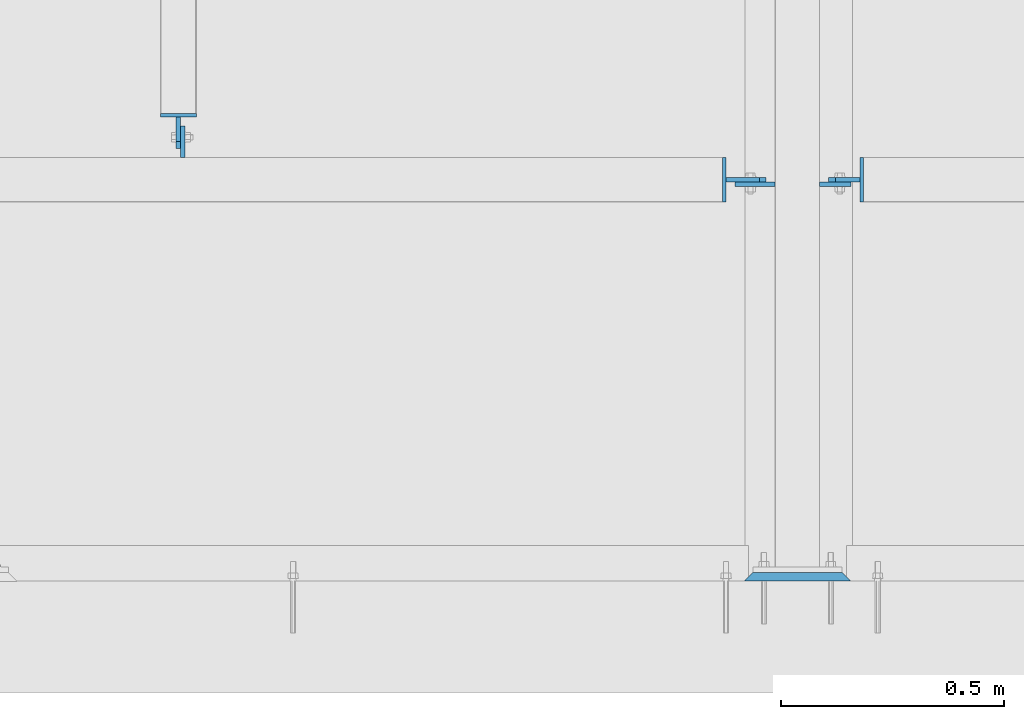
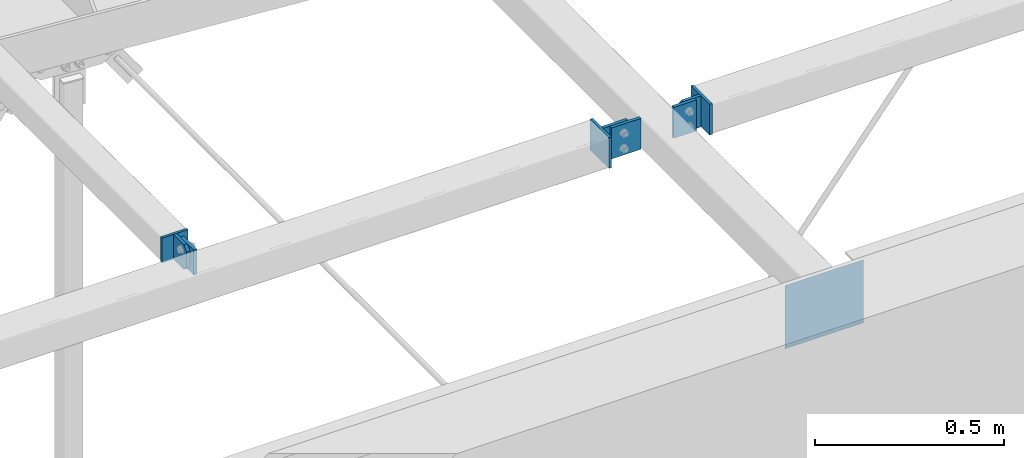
# One storey, part 105 of 271: 10 plates, 5 elements without a shape of their own.
"""IFC2X3 building model written with IfcOpenShell, lengths in millimetres."""

from ifc_helpers import new_model, si_unit, frame, origin_with_axes, place, context, subcontext, project, spatial, polyline, outline, extrude, boolean, material, type_object, element, aggregate, save


model = new_model("IFC2X3")

# Units and contexts
model_context = context("Model", 3, precision=1e-05, world=origin_with_axes())
body_context = subcontext(model_context, "Body", "Model", "MODEL_VIEW")
ifc_project = project(units=[si_unit("LENGTHUNIT", "METRE", prefix="MILLI"), si_unit("AREAUNIT", "SQUARE_METRE"), si_unit("VOLUMEUNIT", "CUBIC_METRE"), si_unit("MASSUNIT", "GRAM", prefix="KILO"), si_unit("TIMEUNIT", "SECOND"), si_unit("PLANEANGLEUNIT", "RADIAN"), si_unit("SOLIDANGLEUNIT", "STERADIAN"), si_unit("THERMODYNAMICTEMPERATUREUNIT", "DEGREE_CELSIUS"), si_unit("LUMINOUSINTENSITYUNIT", "LUMEN")], contexts=[model_context])

# Site, building, storey
site_placement = place(None, origin_with_axes())
site = spatial("IfcSite", under=ifc_project, at=site_placement, Name="Undefined", CompositionType="ELEMENT")
building_placement = place(site_placement, origin_with_axes())
building = spatial("IfcBuilding", under=site, at=building_placement, Name="Undefined", CompositionType="ELEMENT")
storey_placement = place(building_placement, origin_with_axes())
storey = spatial("IfcBuildingStorey", under=building, at=storey_placement, Name="Undefined", CompositionType="ELEMENT", Elevation=0.0)

# Assembly, plate
assembly_1_placement = place(storey_placement, origin_with_axes())
assembly_1 = element("IfcElementAssembly", 1, at=assembly_1_placement, inside=storey, AssemblyPlace="NOTDEFINED", PredefinedType="RIGID_FRAME")
ifc_material_1 = material(Name="STEEL/S355JR")
plate_type_1 = type_object("IfcPlateType", Name="BL8*100", PredefinedType="NOTDEFINED")
plate_1_placement = place(assembly_1_placement, frame((3004.37568709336, 849.32498425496, 20204.3499999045), z_axis=(1.0, 0.0, 0.0), x_axis=(0.0, 0.0, -1.0)))
plate_1 = element("IfcPlate", 2, at=plate_1_placement, type_object=plate_type_1, material=ifc_material_1, Name="BLACHA", ObjectType="BL8*100", context=body_context, shape_type="SweptSolid", body=[
    extrude(outline(polyline([(0.0, 0.0), (100.0, 0.0), (100.0, 100.0), (1.59161572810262e-12, 100.0), (0.0, 0.0)])), frame((0.0, 0.0, -4.0), z_axis=(0.0, 0.0, 1.0), x_axis=(1.0, 0.0, 0.0)), (0.0, 0.0, 1.0), 8.0),
])

assembly_2_placement = place(storey_placement, origin_with_axes())
assembly_2 = element("IfcElementAssembly", 3, at=assembly_2_placement, inside=storey, AssemblyPlace="NOTDEFINED", PredefinedType="RIGID_FRAME")
plate_2_placement = place(assembly_2_placement, frame((3312.37568709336, 849.32498425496, 20104.3499999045), z_axis=(-1.0, 0.0, 1.38777878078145e-17), x_axis=(0.0, 0.0, 1.0)))
plate_2 = element("IfcPlate", 4, at=plate_2_placement, type_object=plate_type_1, material=ifc_material_1, Name="BLACHA", ObjectType="BL8*100", context=body_context, shape_type="SweptSolid", body=[
    extrude(outline(polyline([(0.0, 0.0), (100.0, 0.0), (100.0, 100.0), (1.59161572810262e-12, 100.0), (0.0, 0.0)])), frame((0.0, 0.0, -4.0), z_axis=(0.0, 0.0, 1.0), x_axis=(1.0, 0.0, 0.0)), (0.0, 0.0, 1.0), 8.0),
])

assembly_3_placement = place(storey_placement, origin_with_axes())
assembly_3 = element("IfcElementAssembly", 5, at=assembly_3_placement, inside=storey, AssemblyPlace="NOTDEFINED", PredefinedType="RIGID_FRAME")
plate_type_2 = type_object("IfcPlateType", Name="BL10*70", PredefinedType="NOTDEFINED")
plate_3_placement = place(assembly_3_placement, frame((1781.37568709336, 984.32498425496, 20124.3499999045), z_axis=(-1.0, 0.0, 1.38777878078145e-17), x_axis=(0.0, -0.707106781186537, 0.707106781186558)))
plate_3 = element("IfcPlate", 6, at=plate_3_placement, type_object=plate_type_2, material=ifc_material_1, Name="BLACHA", ObjectType="BL10*70", context=body_context, shape_type="SweptSolid", body=[
    extrude(outline(polyline([(0.0, 0.0), (21.2132034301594, 1.09139364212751e-11), (56.5685424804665, 35.3553390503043), (56.568542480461, 56.5685424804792), (17.6776695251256, 95.4594192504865), (-38.890872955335, 38.8908729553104), (0.0, 0.0)])), frame((0.0, 0.0, -5.0), z_axis=(0.0, 0.0, 1.0), x_axis=(1.0, 0.0, 0.0)), (0.0, 0.0, 1.0), 10.0),
])

# Plate
plate_4_placement = place(assembly_1_placement, frame((1791.37568709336, 949.32498425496, 20124.3499999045), z_axis=(-1.0, 0.0, 1.38777878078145e-17), x_axis=(0.0, 0.0, 1.0)))
plate_4 = element("IfcPlate", 7, at=plate_4_placement, type_object=plate_type_2, material=ifc_material_1, Name="BLACHA", ObjectType="BL10*70", context=body_context, shape_type="SweptSolid", body=[
    extrude(outline(polyline([(0.0, 0.0), (80.0, 0.0), (80.0, 70.0), (0.0, 70.0), (0.0, 0.0)])), frame((0.0, 0.0, -5.0), z_axis=(0.0, 0.0, 1.0), x_axis=(1.0, 0.0, 0.0)), (0.0, 0.0, 1.0), 10.0),
])

plate_5_placement = place(assembly_2_placement, frame((3253.37568709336, 899.32498425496, 20104.3499999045), z_axis=(0.0, 1.0, 0.0), x_axis=(-0.707106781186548, 0.0, 0.707106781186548)))
plate_5 = element("IfcPlate", 8, at=plate_5_placement, type_object=plate_type_2, material=ifc_material_1, Name="BLACHA", ObjectType="BL10*70", context=body_context, shape_type="SweptSolid", body=[
    extrude(outline(polyline([(0.0, 0.0), (21.2132034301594, 1.09139364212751e-11), (70.7106781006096, 49.4974746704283), (70.7106781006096, 70.7106781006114), (31.8198051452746, 109.601554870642), (-38.890872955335, 38.8908729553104), (0.0, 0.0)])), frame((0.0, 0.0, -5.0), z_axis=(0.0, 0.0, 1.0), x_axis=(1.0, 0.0, 0.0)), (0.0, 0.0, 1.0), 10.0),
])

aggregate(assembly_2, [plate_2, plate_5])

# Assembly, plate
assembly_4_placement = place(storey_placement, origin_with_axes())
assembly_4 = element("IfcElementAssembly", 9, at=assembly_4_placement, inside=storey, AssemblyPlace="NOTDEFINED", PredefinedType="RIGID_FRAME")
plate_6_placement = place(assembly_4_placement, frame((3218.37568709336, 889.32498425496, 20104.3499999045), z_axis=(0.0, 1.0, 0.0), x_axis=(0.0, 0.0, 1.0)))
plate_6 = element("IfcPlate", 10, at=plate_6_placement, type_object=plate_type_2, material=ifc_material_1, Name="BLACHA", ObjectType="BL10*70", context=body_context, shape_type="SweptSolid", body=[
    extrude(outline(polyline([(0.0, 0.0), (100.0, 0.0), (100.0, 70.0), (0.0, 70.0), (0.0, 0.0)])), frame((0.0, 0.0, -5.0), z_axis=(0.0, 0.0, 1.0), x_axis=(1.0, 0.0, 0.0)), (0.0, 0.0, 1.0), 10.0),
])

# Plate
plate_type_3 = type_object("IfcPlateType", Name="BL8*80", PredefinedType="NOTDEFINED")
plate_7_placement = place(assembly_3_placement, frame((1821.37568709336, 1043.32498425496, 20124.3499999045), z_axis=(0.0, -1.0, 0.0), x_axis=(0.0, 0.0, 1.0)))
plate_7 = element("IfcPlate", 11, at=plate_7_placement, type_object=plate_type_3, material=ifc_material_1, Name="BLACHA", ObjectType="BL8*80", context=body_context, shape_type="SweptSolid", body=[
    extrude(outline(polyline([(0.0, 0.0), (80.0, 0.0), (80.0, 80.0), (0.0, 80.0), (0.0, 0.0)])), frame((0.0, 0.0, -4.0), z_axis=(0.0, 0.0, 1.0), x_axis=(1.0, 0.0, 0.0)), (0.0, 0.0, 1.0), 8.0),
])

aggregate(assembly_3, [plate_7, plate_3])

plate_type_4 = type_object("IfcPlateType", Name="BL10*90", PredefinedType="NOTDEFINED")
plate_8_placement = place(assembly_1_placement, frame((3083.37568709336, 899.32498425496, 20204.3499999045), z_axis=(0.0, 1.0, 0.0), x_axis=(0.70710678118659, 0.0, -0.707106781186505)))
plate_8 = element("IfcPlate", 12, at=plate_8_placement, type_object=plate_type_4, material=ifc_material_1, Name="BLACHA", ObjectType="BL10*90", context=body_context, shape_type="SweptSolid", body=[
    extrude(outline(polyline([(0.0, 0.0), (21.2132034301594, 1.09139364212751e-11), (70.7106781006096, 49.4974746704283), (70.7106781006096, 70.7106781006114), (17.6776695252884, 123.743690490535), (-53.033008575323, 53.0330085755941), (0.0, 0.0)])), frame((0.0, 0.0, -5.0), z_axis=(0.0, 0.0, 1.0), x_axis=(1.0, 0.0, 0.0)), (0.0, 0.0, 1.0), 10.0),
])

aggregate(assembly_1, [plate_4, plate_1, plate_8])

plate_9_placement = place(assembly_4_placement, frame((3118.37568709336, 889.32498425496, 20204.3499999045), z_axis=(0.0, 1.0, 0.0), x_axis=(0.0, 0.0, -1.0)))
plate_9 = element("IfcPlate", 13, at=plate_9_placement, type_object=plate_type_4, material=ifc_material_1, Name="BLACHA", ObjectType="BL10*90", context=body_context, shape_type="SweptSolid", body=[
    extrude(outline(polyline([(0.0, 0.0), (100.0, 0.0), (100.0, 90.0), (0.0, 90.0), (0.0, 0.0)])), frame((0.0, 0.0, -5.0), z_axis=(0.0, 0.0, 1.0), x_axis=(1.0, 0.0, 0.0)), (0.0, 0.0, 1.0), 10.0),
])

aggregate(assembly_4, [plate_9, plate_6])

# Assembly, plate
assembly_5_placement = place(storey_placement, origin_with_axes())
assembly_5 = element("IfcElementAssembly", 14, at=assembly_5_placement, inside=storey, Name="GROUT", AssemblyPlace="NOTDEFINED", PredefinedType="NOTDEFINED")
ifc_material_2 = material(Name="Undefined/GROUT")
plate_type_5 = type_object("IfcPlateType", Name="BL20*205", PredefinedType="NOTDEFINED")
plate_10_placement = place(assembly_5_placement, frame((3288.37568709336, 9.32498425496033, 20019.3499999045), z_axis=(0.0, 1.0, 0.0), x_axis=(-1.0, 0.0, 1.38777878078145e-17)))
plate_10 = element("IfcPlate", 15, at=plate_10_placement, type_object=plate_type_5, material=ifc_material_2, Name="GROUT", ObjectType="BL20*205", context=body_context, shape_type="CSG", body=[
    boolean("DIFFERENCE", boolean("DIFFERENCE", boolean("DIFFERENCE", boolean("DIFFERENCE", extrude(outline(polyline([(0.0, 0.0), (240.0, 0.0), (240.0, 205.0), (0.0, 205.0), (0.0, 0.0)])), frame((0.0, 0.0, -10.0), z_axis=(0.0, 0.0, 1.0), x_axis=(1.0, 0.0, 0.0)), (0.0, 0.0, 1.0), 20.0), extrude(outline(polyline([(0.0, 0.0), (44.2842712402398, -1.45519152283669e-11), (22.1421356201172, 22.1421356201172), (0.0, 0.0)])), frame((-5.65685424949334, 213.0, -15.6568542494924), z_axis=(0.0, -1.0, 0.0), x_axis=(0.707106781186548, 0.0, 0.707106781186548)), (0.0, 0.0, 1.0), 221.0)), extrude(outline(polyline([(0.0, 0.0), (42.2842712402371, -1.54614099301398e-11), (21.1421356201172, 21.1421356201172), (0.0, 0.0)])), frame((247.0, 209.949747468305, -14.9497474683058), z_axis=(-1.0, 0.0, 1.38777878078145e-17), x_axis=(0.0, -0.707106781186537, 0.707106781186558)), (0.0, 0.0, 1.0), 254.0)), extrude(outline(polyline([(0.0, 0.0), (40.2842712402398, -1.45519152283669e-11), (20.1421356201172, 20.1421356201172), (0.0, 0.0)])), frame((244.24264068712, -6.0, -14.2426406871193), z_axis=(0.0, 1.0, 0.0), x_axis=(-0.707106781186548, 0.0, 0.707106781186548)), (0.0, 0.0, 1.0), 217.0)), extrude(outline(polyline([(0.0, 0.0), (38.284271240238, -1.45519152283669e-11), (19.1421356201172, 19.1421356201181), (0.0, 0.0)])), frame((-5.0, -3.53553390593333, -13.5355339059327), z_axis=(1.0, 0.0, 0.0), x_axis=(0.0, 0.707106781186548, 0.707106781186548)), (0.0, 0.0, 1.0), 250.0)),
])
aggregate(assembly_5, [plate_10])

save(model, "model.ifc")
